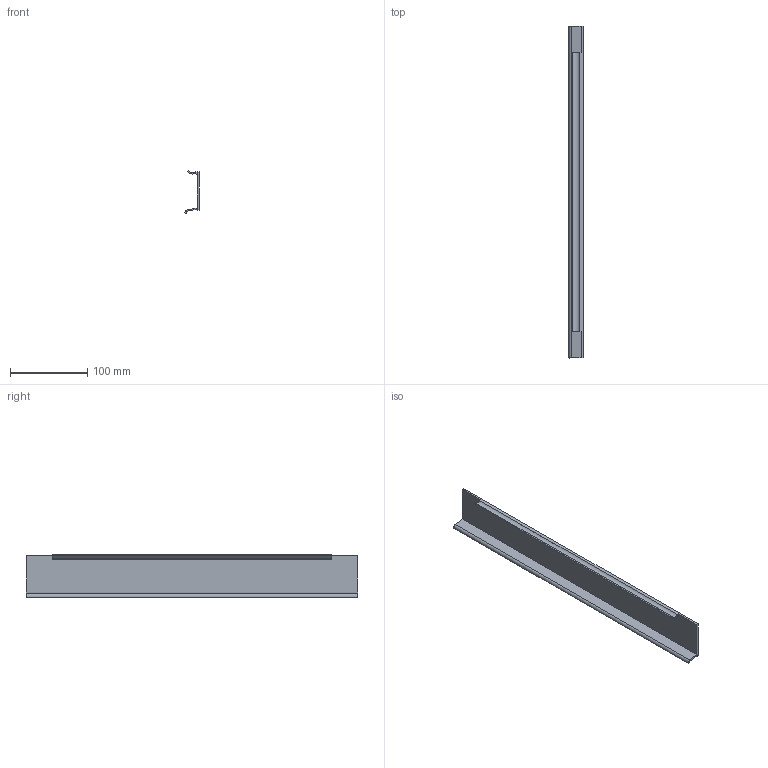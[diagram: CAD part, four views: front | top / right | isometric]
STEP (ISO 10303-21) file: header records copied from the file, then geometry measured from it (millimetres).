
FILE_DESCRIPTION (( 'STEP AP214' ), '1' );
FILE_NAME ('Sidecover_NL-450.step', '2010-09-21T06:52:13', ( 'grass' ), ( '' ), 'SwSTEP 2.0', 'SolidWorks 2010', '' );
FILE_SCHEMA (( 'AUTOMOTIVE_DESIGN' ));
Length unit declared in the file: millimetre
Products named in the file (1): Sidecover_NL-450
Bounding box: 18.14 x 429.5 x 54.9 mm (x, y, z)
Volume: 70392.7 mm3; surface area: 68802.7 mm2
Topology: 1 solids, 1 shells, 19 faces, 51 edges, 34 vertices
Faces by surface type: plane 14, cylinder 5
Entity records: 629 total; most frequent: CARTESIAN_POINT 105, ORIENTED_EDGE 102, DIRECTION 101, EDGE_CURVE 51, LINE 41, VECTOR 41, VERTEX_POINT 34, AXIS2_PLACEMENT_3D 30
